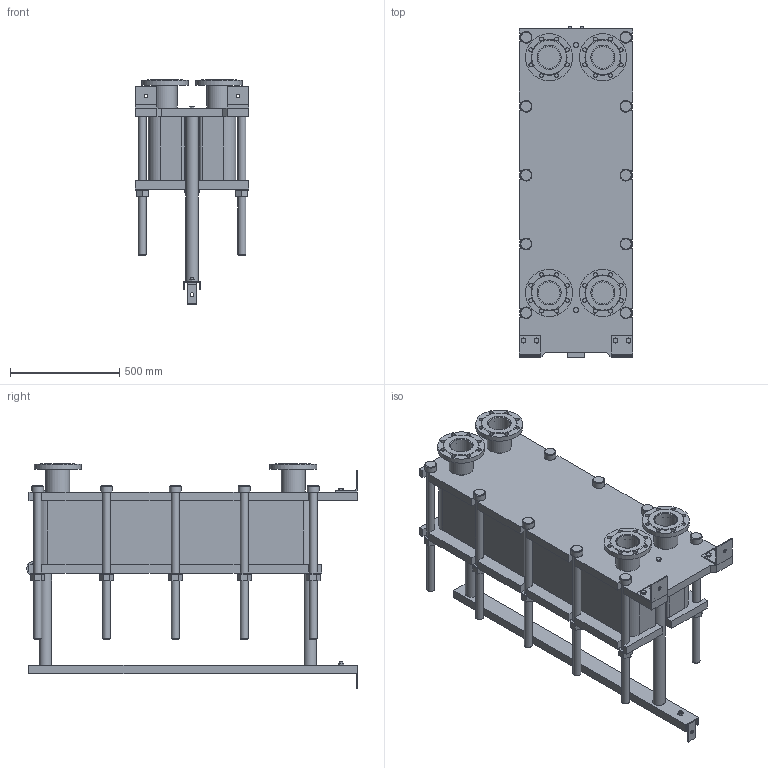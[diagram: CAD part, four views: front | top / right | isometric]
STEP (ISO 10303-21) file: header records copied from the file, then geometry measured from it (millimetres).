
FILE_DESCRIPTION(/* description */ (''),/* implementation_level */ '2;1');
FILE_NAME(/* name */ 'C:\Users\zhuro\Desktop\ENCO\TO\ЭН-04\ЭН-0,5-04-84-1.stp',/* time_stamp */ '2022-06-06T10:52:12+03:00',/* author */ ('zhuro'),/* organization */ (''),/* preprocessor_version */ 'ST-DEVELOPER v18.1',/* originating_system */ 'Autodesk Inventor 2022',/* authorisation */ '');
FILE_SCHEMA (('AUTOMOTIVE_DESIGN { 1 0 10303 214 3 1 1 }'));
Length unit declared in the file: millimetre
Products named in the file (1): ЭН-0,5-04-84-1
Bounding box: 520 x 1510 x 1027 mm (x, y, z)
Volume: 215173851.9 mm3; surface area: 8003420.4 mm2
Topology: 45 solids, 45 shells, 668 faces, 1611 edges, 1048 vertices
Faces by surface type: plane 457, cylinder 166, cone 39, torus 6
Full cylindrical faces by diameter (mm): 8 x4, 10 x2, 16 x8, 18 x35, 36 x25, 40 x2, 42 x1, 45 x4, 54 x10, 57 x2, 60 x10, 68 x2, 100 x4, 110 x8, 215 x4
Entity records: 23607 total; most frequent: CARTESIAN_POINT 7348, DIRECTION 3371, ORIENTED_EDGE 3142, EDGE_CURVE 1571, AXIS2_PLACEMENT_3D 1199, VERTEX_POINT 1044, LINE 973, VECTOR 973
